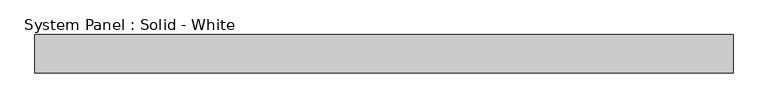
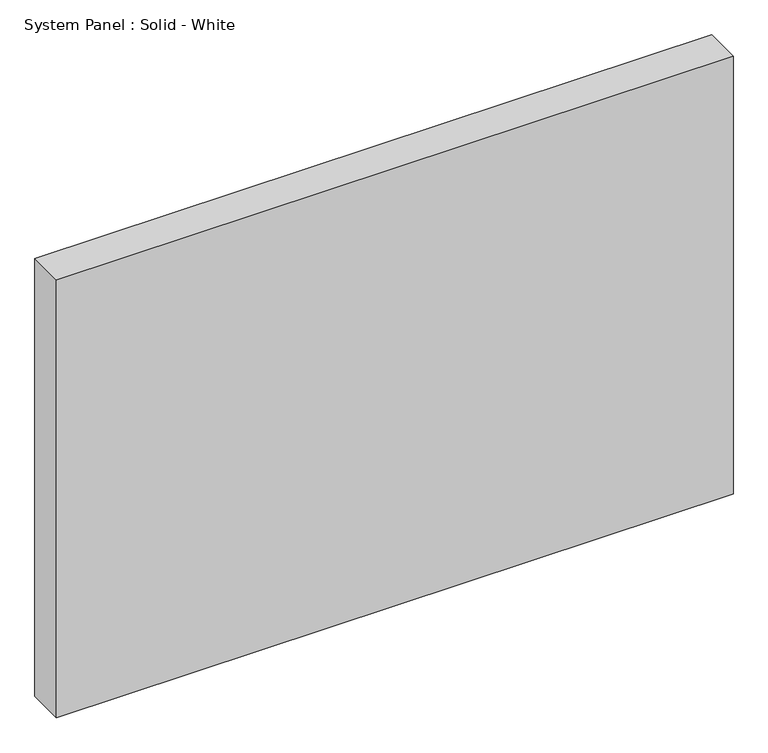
"""IFC4 building model written with IfcOpenShell, lengths in millimetres: plate geometry, System Panel : Solid - White."""

from ifc_helpers import new_model, si_unit, origin, origin_with_axes, place, context, project, spatial, polyline, outline, extrude, source, transform, mapped, element, save


def system_panel_solid_white_f558f5f0(model_context):
    return source(origin(), model_context, "Body", "SweptSolid", [
        extrude(outline(polyline([(575.3099999, -19.05), (-575.3099999, -19.05), (-575.3099999, 44.45), (575.3099999, 44.45), (575.3099999, -19.05)])), origin_with_axes(), (0.0, 0.0, 1.0), 787.4),
    ])


if __name__ == "__main__":
    model = new_model("IFC4")
    model_context = context("Model", 3, world=origin())
    ifc_project = project(units=[si_unit("LENGTHUNIT", "METRE", prefix="MILLI")], contexts=[model_context])
    site = spatial("IfcSite", under=ifc_project)
    building = spatial("IfcBuilding", under=site)
    placement = place(None, origin())
    system_panel_solid_white_shape = system_panel_solid_white_f558f5f0(model_context)
    element("IfcPlate", 1, ObjectType="System Panel : Solid - White", at=placement, inside=building, context=model_context, shape_type="MappedRepresentation", body=[
        mapped(system_panel_solid_white_shape, transform((0.0, 0.0, 0.0), x_axis=(1.0, 0.0, 0.0), y_axis=(0.0, 1.0, 0.0), z_axis=(0.0, 0.0, 1.0))),
    ])
    save(model, "model.ifc")
